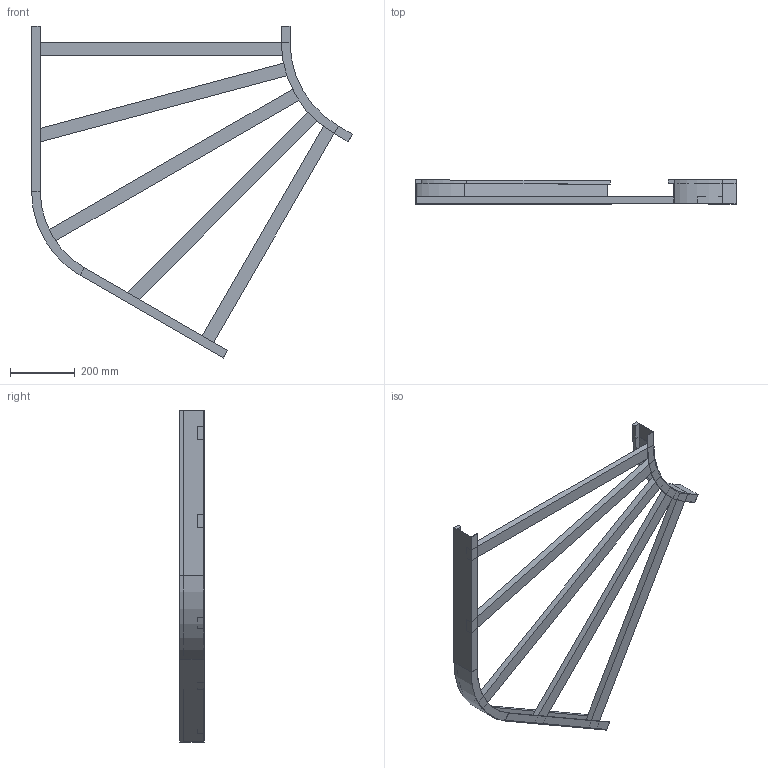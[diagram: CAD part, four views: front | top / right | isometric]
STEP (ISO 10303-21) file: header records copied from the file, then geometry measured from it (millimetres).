
FILE_DESCRIPTION (( 'STEP AP214' ), '1' );
FILE_NAME ('B2_13B3C800.step', '2025-02-21T15:22:01', ( '' ), ( '' ), 'SwSTEP 2.0', 'SolidWorks 2023', '' );
FILE_SCHEMA (( 'AUTOMOTIVE_DESIGN' ));
Length unit declared in the file: millimetre
Products named in the file (6): B2_LONGH.INTERNO 60°_H75_R300; TRAVERSINO_L918; TRAVERSINO_800; B2_LONGH.ESTERNO 60°_H75_R300+800; TRAVERSINO_900_SCANTONATO; B2_13B3C800
Assembly tree (7 placements, depth 2):
  B2_13B3C800
    B2_LONGH.INTERNO 60°_H75_R300
    B2_LONGH.ESTERNO 60°_H75_R300+800
    TRAVERSINO_800  x2
    TRAVERSINO_900_SCANTONATO  x2
    TRAVERSINO_L918
Bounding box: 993.3 x 75 x 1027.63 mm (x, y, z)
Volume: 4073425 mm3; surface area: 929118.3 mm2
Topology: 7 solids, 7 shells, 82 faces, 172 edges, 104 vertices
Faces by surface type: plane 74, cylinder 8
Entity records: 2015 total; most frequent: DIRECTION 324, CARTESIAN_POINT 316, ORIENTED_EDGE 296, EDGE_CURVE 148, LINE 132, VECTOR 132, AXIS2_PLACEMENT_3D 96, VERTEX_POINT 88
